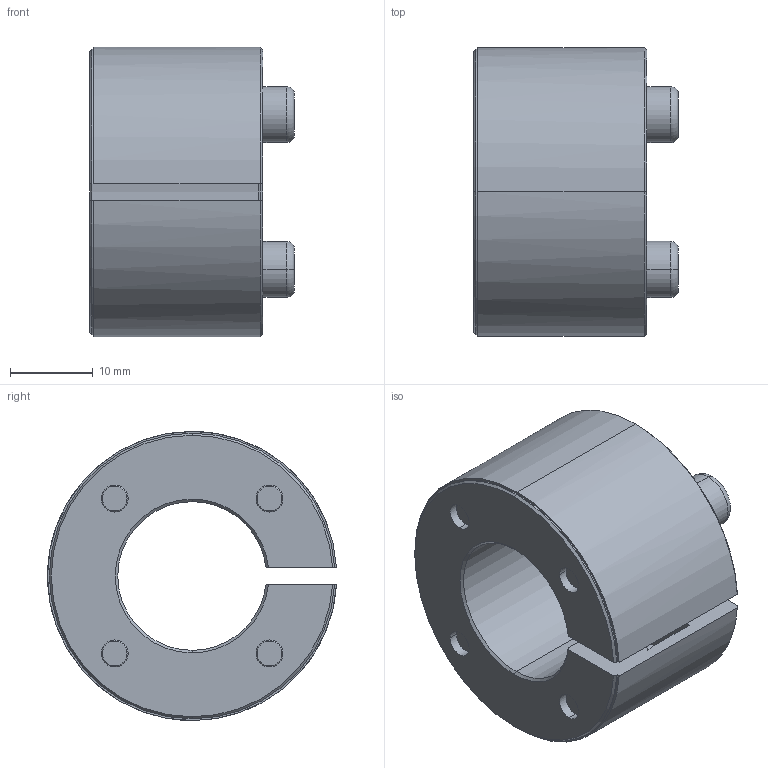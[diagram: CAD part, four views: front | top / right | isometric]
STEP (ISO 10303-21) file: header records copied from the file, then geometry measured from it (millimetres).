
FILE_DESCRIPTION (( 'STEP AP214' ), '1' );
FILE_NAME ('SAPL-E-18-35.STEP', '2024-07-12T02:09:24', ( '决扁浅何厘' ), ( '' ), 'SwSTEP 2.0', 'SolidWorks 2024', '' );
FILE_SCHEMA (( 'AUTOMOTIVE_DESIGN' ));
Length unit declared in the file: millimetre
Products named in the file (1): SAPL-E-18-35
Bounding box: 24.81 x 34.97 x 35 mm (x, y, z)
Volume: 11897.3 mm3; surface area: 8643.9 mm2
Topology: 1 solids, 1 shells, 139 faces, 341 edges, 220 vertices
Faces by surface type: cylinder 48, plane 48, cone 35, torus 8
Entity records: 4260 total; most frequent: CARTESIAN_POINT 827, DIRECTION 752, ORIENTED_EDGE 682, EDGE_CURVE 341, AXIS2_PLACEMENT_3D 298, VERTEX_POINT 220, EDGE_LOOP 169, CIRCLE 158
